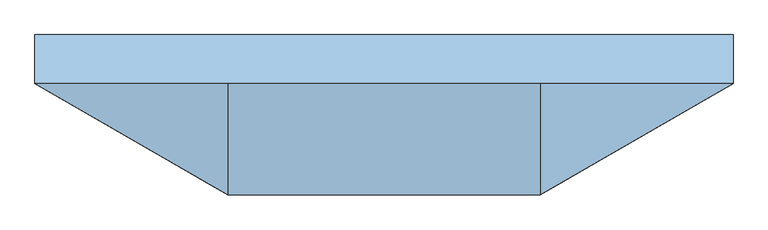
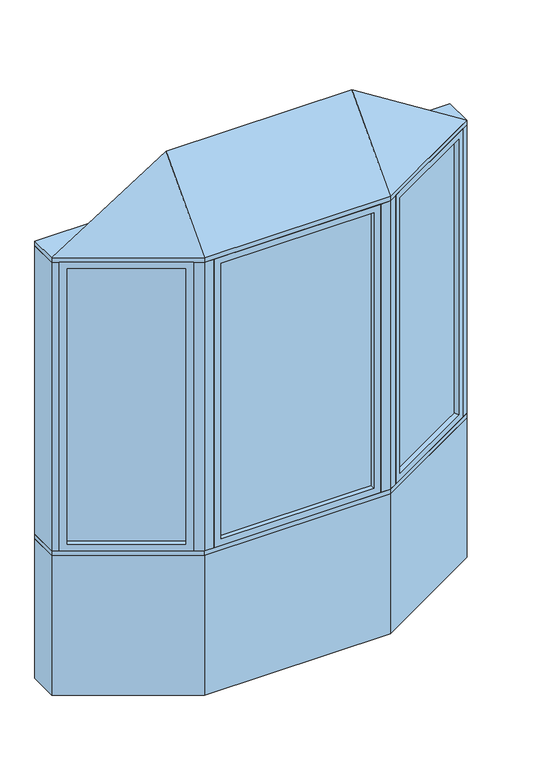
"""IFC4 building model written with IfcOpenShell, lengths in millimetres: window geometry, Pollard_Windows_Tudor Casement Bows and Bays : AML-BAY 30 AFR0516-12-600."""

from ifc_helpers import new_model, si_unit, frame, origin, origin_with_axes, place, context, project, spatial, polyline, outline, extrude, faceted_brep, source, transform, mapped, element, save


def window_9f57e5f6(model_context):
    return source(origin(), model_context, "Body", "SolidModel", [
        extrude(outline(polyline([(1026.612102, -82.0482469), (538.3834764, -363.9271754), (535.8434764, -359.5277664), (1024.072102, -77.6488379), (1026.612102, -82.0482469)])), frame((0.0, 0.0, 823.1628), z_axis=(0.0, 0.0, 1.0), x_axis=(1.0, 0.0, 0.0)), (0.0, 0.0, 1.0), 1553.6704),
        faceted_brep([(1015.6135794, -88.3982469, 835.8628), (1028.3135794, -110.3952922, 835.8628), (1028.3135794, -110.3952922, 2364.1332), (1015.6135794, -88.3982469, 2364.1332), (1024.072102, -77.6488379, 823.1628), (1026.612102, -82.0482469, 823.1628), (1026.612102, -82.0482469, 2376.8332), (1024.072102, -77.6488379, 2376.8332), (1000.3735794, -62.0017926, 835.8628), (1013.0735794, -83.9988379, 835.8628), (1013.0735794, -83.9988379, 2364.1332), (1000.3735794, -62.0017926, 2364.1332), (1059.3734073, -92.4628922, 799.998), (1031.4334073, -44.0693926, 799.998), (1031.4334073, -44.0693926, 2399.998), (1059.3734073, -92.4628922, 2399.998), (562.081999, -379.5742207, 2364.1332), (549.381999, -357.5771754, 2364.1332), (538.3834764, -363.9271754, 2376.8332), (535.8434764, -359.5277664, 2376.8332), (546.841999, -353.1777664, 2364.1332), (534.141999, -331.1807211, 2364.1332), (503.0821711, -349.1131211, 2399.998), (531.0221711, -397.5066207, 2399.998), (562.081999, -379.5742207, 835.8628), (549.381999, -357.5771754, 835.8628), (538.3834764, -363.9271754, 823.1628), (535.8434764, -359.5277664, 823.1628), (546.841999, -353.1777664, 835.8628), (534.141999, -331.1807211, 835.8628), (503.0821711, -349.1131211, 799.998), (531.0221711, -397.5066207, 799.998)], [[[0, 1, 2, 3]], [[4, 5, 6, 7]], [[8, 9, 10, 11]], [[12, 13, 14, 15]], [[3, 2, 16, 17]], [[7, 6, 18, 19]], [[11, 10, 20, 21]], [[15, 14, 22, 23]], [[17, 16, 24, 25]], [[19, 18, 26, 27]], [[21, 20, 28, 29]], [[23, 22, 30, 31]], [[25, 24, 1, 0]], [[5, 26, 18, 6], [3, 17, 25, 0]], [[27, 26, 5, 4]], [[7, 19, 27, 4], [9, 28, 20, 10]], [[29, 28, 9, 8]], [[13, 30, 22, 14], [11, 21, 29, 8]], [[31, 30, 13, 12]], [[15, 23, 31, 12], [1, 24, 16, 2]]]),
        extrude(outline(polyline([(-538.3834764, -363.9271754), (-1026.612102, -82.0482469), (-1024.072102, -77.6488379), (-535.8434764, -359.5277664), (-538.3834764, -363.9271754)])), frame((0.0, 0.0, 823.1628), z_axis=(0.0, 0.0, 1.0), x_axis=(1.0, 0.0, 0.0)), (0.0, 0.0, 1.0), 1553.6704),
        faceted_brep([(-546.841999, -353.1777664, 2364.1332), (-534.141999, -331.1807211, 2364.1332), (-534.141999, -331.1807211, 835.8628), (-546.841999, -353.1777664, 835.8628), (-538.3834764, -363.9271754, 2376.8332), (-535.8434764, -359.5277664, 2376.8332), (-535.8434764, -359.5277664, 823.1628), (-538.3834764, -363.9271754, 823.1628), (-562.081999, -379.5742207, 2364.1332), (-549.381999, -357.5771754, 2364.1332), (-549.381999, -357.5771754, 835.8628), (-562.081999, -379.5742207, 835.8628), (-503.0821711, -349.1131211, 2399.998), (-531.0221711, -397.5066207, 2399.998), (-531.0221711, -397.5066207, 799.998), (-503.0821711, -349.1131211, 799.998), (-1000.3735794, -62.0017926, 835.8628), (-1013.0735794, -83.9988379, 835.8628), (-1024.072102, -77.6488379, 823.1628), (-1026.612102, -82.0482469, 823.1628), (-1015.6135794, -88.3982469, 835.8628), (-1028.3135794, -110.3952922, 835.8628), (-1059.3734073, -92.4628922, 799.998), (-1031.4334073, -44.0693926, 799.998), (-1000.3735794, -62.0017926, 2364.1332), (-1013.0735794, -83.9988379, 2364.1332), (-1024.072102, -77.6488379, 2376.8332), (-1026.612102, -82.0482469, 2376.8332), (-1015.6135794, -88.3982469, 2364.1332), (-1028.3135794, -110.3952922, 2364.1332), (-1059.3734073, -92.4628922, 2399.998), (-1031.4334073, -44.0693926, 2399.998)], [[[0, 1, 2, 3]], [[4, 5, 6, 7]], [[8, 9, 10, 11]], [[12, 13, 14, 15]], [[3, 2, 16, 17]], [[7, 6, 18, 19]], [[11, 10, 20, 21]], [[15, 14, 22, 23]], [[17, 16, 24, 25]], [[19, 18, 26, 27]], [[21, 20, 28, 29]], [[23, 22, 30, 31]], [[15, 23, 31, 12], [1, 24, 16, 2]], [[25, 24, 1, 0]], [[5, 26, 18, 6], [3, 17, 25, 0]], [[27, 26, 5, 4]], [[7, 19, 27, 4], [9, 28, 20, 10]], [[29, 28, 9, 8]], [[13, 30, 22, 14], [11, 21, 29, 8]], [[31, 30, 13, 12]]]),
        extrude(outline(polyline([(414.5561009, -397.1066207), (-414.5561009, -397.1066207), (-414.5561009, -392.0266207), (414.5561009, -392.0266207), (414.5561009, -397.1066207)])), frame((0.0, 0.0, 823.1628), z_axis=(0.0, 0.0, 1.0), x_axis=(1.0, 0.0, 0.0)), (0.0, 0.0, 1.0), 1553.6704),
        faceted_brep([(401.8561009, -397.1066207, 835.8628), (401.8561009, -422.5066207, 835.8628), (401.8561009, -422.5066207, 2364.1332), (401.8561009, -397.1066207, 2364.1332), (414.5561009, -392.0266207, 823.1628), (414.5561009, -397.1066207, 823.1628), (414.5561009, -397.1066207, 2376.8332), (414.5561009, -392.0266207, 2376.8332), (401.8561009, -366.6266207, 835.8628), (401.8561009, -392.0266207, 835.8628), (401.8561009, -392.0266207, 2364.1332), (401.8561009, -366.6266207, 2364.1332), (437.7209009, -422.5066207, 799.998), (437.7209009, -366.6266207, 799.998), (437.7209009, -366.6266207, 2399.998), (437.7209009, -422.5066207, 2399.998), (-401.8561009, -422.5066207, 2364.1332), (-401.8561009, -397.1066207, 2364.1332), (-414.5561009, -397.1066207, 2376.8332), (-414.5561009, -392.0266207, 2376.8332), (-401.8561009, -392.0266207, 2364.1332), (-401.8561009, -366.6266207, 2364.1332), (-437.7209009, -366.6266207, 2399.998), (-437.7209009, -422.5066207, 2399.998), (-401.8561009, -422.5066207, 835.8628), (-401.8561009, -397.1066207, 835.8628), (-414.5561009, -397.1066207, 823.1628), (-414.5561009, -392.0266207, 823.1628), (-401.8561009, -392.0266207, 835.8628), (-401.8561009, -366.6266207, 835.8628), (-437.7209009, -366.6266207, 799.998), (-437.7209009, -422.5066207, 799.998)], [[[0, 1, 2, 3]], [[4, 5, 6, 7]], [[8, 9, 10, 11]], [[12, 13, 14, 15]], [[3, 2, 16, 17]], [[7, 6, 18, 19]], [[11, 10, 20, 21]], [[15, 14, 22, 23]], [[17, 16, 24, 25]], [[19, 18, 26, 27]], [[21, 20, 28, 29]], [[23, 22, 30, 31]], [[15, 23, 31, 12], [1, 24, 16, 2]], [[25, 24, 1, 0]], [[5, 26, 18, 6], [3, 17, 25, 0]], [[27, 26, 5, 4]], [[7, 19, 27, 4], [9, 28, 20, 10]], [[29, 28, 9, 8]], [[13, 30, 22, 14], [11, 21, 29, 8]], [[31, 30, 13, 12]]]),
        faceted_brep([(1090.0, -74.7806207, 2425.398), (487.7209009, -422.5066207, 2425.398), (-487.7209009, -422.5066207, 2425.398), (-1090.0, -74.7806207, 2425.398), (-487.7209009, -74.7806207, 2806.398), (487.7209009, -74.7806207, 2806.398)], [[[0, 1, 2, 3]], [[3, 2, 4]], [[2, 1, 5, 4]], [[1, 0, 5]], [[0, 3, 4, 5]]]),
        extrude(outline(polyline([(-1090.0, 77.6193793), (1090.0, 77.6193793), (1090.0, -74.7806207), (487.7209009, -422.5066207), (-487.7209009, -422.5066207), (-1090.0, -74.7806207), (-1090.0, 77.6193793)])), frame((0.0, 0.0, 2399.998), z_axis=(0.0, 0.0, 1.0), x_axis=(1.0, 0.0, 0.0)), (0.0, 0.0, 1.0), 25.4),
        extrude(outline(polyline([(-1090.0, -74.7806207), (-1090.0, 77.6193793), (-1049.1645431, 77.6193793), (-1049.1645431, -74.7806207), (-1059.3734073, -92.4628922), (-1090.0, -74.7806207)])), frame((0.0, 0.0, 799.998), z_axis=(0.0, 0.0, 1.0), x_axis=(1.0, 0.0, 0.0)), (0.0, 0.0, 1.0), 1600.0),
        extrude(outline(polyline([(1090.0, 77.6193793), (1090.0, -74.7806207), (1059.3734073, -92.4628922), (1049.1645431, -74.7806207), (1049.1645431, 77.6193793), (1090.0, 77.6193793)])), frame((0.0, 0.0, 799.998), z_axis=(0.0, 0.0, 1.0), x_axis=(1.0, 0.0, 0.0)), (0.0, 0.0, 1.0), 1600.0),
        extrude(outline(polyline([(487.7209009, -422.5066207), (437.7209009, -422.5066207), (437.7209009, -372.5066207), (474.3234413, -372.5066207), (506.0221711, -354.2053505), (531.0221711, -397.5066207), (487.7209009, -422.5066207)])), frame((0.0, 0.0, 799.998), z_axis=(0.0, 0.0, 1.0), x_axis=(1.0, 0.0, 0.0)), (0.0, 0.0, 1.0), 1600.0),
        extrude(outline(polyline([(-487.7209009, -422.5066207), (-531.0221711, -397.5066207), (-506.0221711, -354.2053505), (-474.3234413, -372.5066207), (-437.7209009, -372.5066207), (-437.7209009, -422.5066207), (-487.7209009, -422.5066207)])), frame((0.0, 0.0, 799.998), z_axis=(0.0, 0.0, 1.0), x_axis=(1.0, 0.0, 0.0)), (0.0, 0.0, 1.0), 1600.0),
        extrude(outline(polyline([(-487.7209009, -422.5066207), (-1090.0, -74.7806207), (-1090.0, 77.6193793), (-1049.1645431, 77.6193793), (-446.885444, -270.1066207), (446.885444, -270.1066207), (1049.1645431, 77.6193793), (1090.0, 77.6193793), (1090.0, -74.7806207), (487.7209009, -422.5066207), (-487.7209009, -422.5066207)])), frame((0.0, 0.0, 774.598), z_axis=(0.0, 0.0, 1.0), x_axis=(1.0, 0.0, 0.0)), (0.0, 0.0, 1.0), 25.4),
        extrude(outline(polyline([(-1090.0, -74.7806207), (-1090.0, 77.6193793), (-1049.1645431, 77.6193793), (-446.885444, -270.1066207), (446.885444, -270.1066207), (1049.1645431, 77.6193793), (1090.0, 77.6193793), (1090.0, -74.7806207), (487.7209009, -422.5066207), (-487.7209009, -422.5066207), (-1090.0, -74.7806207)])), origin_with_axes(), (0.0, 0.0, 1.0), 774.598),
    ])


if __name__ == "__main__":
    model = new_model("IFC4")
    model_context = context("Model", 3, world=origin())
    ifc_project = project(units=[si_unit("LENGTHUNIT", "METRE", prefix="MILLI")], contexts=[model_context])
    site = spatial("IfcSite", under=ifc_project)
    building = spatial("IfcBuilding", under=site)
    placement = place(None, origin())
    window_shape = window_9f57e5f6(model_context)
    element("IfcWindow", 1, ObjectType="Pollard_Windows_Tudor Casement Bows and Bays : AML-BAY 30 AFR0516-12-600", at=placement, inside=building, context=model_context, shape_type="MappedRepresentation", body=[
        mapped(window_shape, transform((0.0, 0.0, 0.0), x_axis=(1.0, 0.0, 0.0), y_axis=(0.0, 1.0, 0.0), z_axis=(0.0, 0.0, 1.0))),
    ])
    save(model, "model.ifc")
